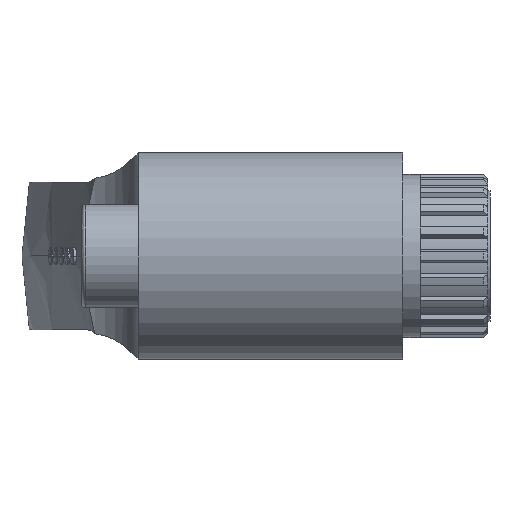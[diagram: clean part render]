
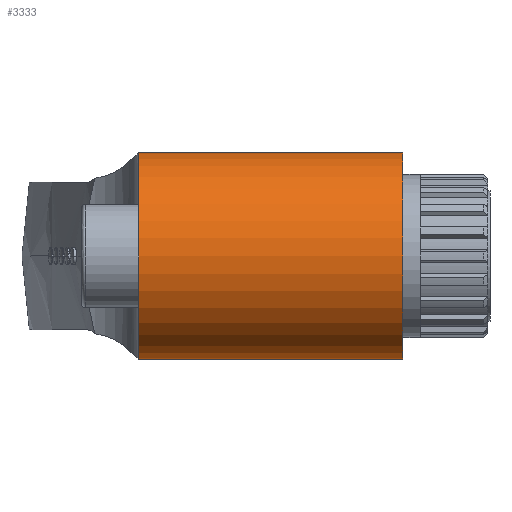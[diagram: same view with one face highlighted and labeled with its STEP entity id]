
A CAD part, left-side view. The second image highlights one B-rep face of the part: STEP entity #3333.
In plain terms, the highlighted cylindrical face has radius 9.5 mm (diameter 19 mm), a partial arc.
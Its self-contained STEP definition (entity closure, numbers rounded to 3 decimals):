
#17 = LINE ( 'NONE', #1514, #216 ) ;
#29 = CARTESIAN_POINT ( 'NONE',  ( 0., 0., -9.5 ) ) ;
#180 = DIRECTION ( 'NONE',  ( 0., 1., 0. ) ) ;
#216 = VECTOR ( 'NONE', #589, 1000. ) ;
#252 = FACE_OUTER_BOUND ( 'NONE', #816, .T. ) ;
#275 = EDGE_CURVE ( 'NONE', #6322, #2502, #4785, .T. ) ;
#449 = CARTESIAN_POINT ( 'NONE',  ( 0., 24.25, 9.5 ) ) ;
#589 = DIRECTION ( 'NONE',  ( 0., -1., 0. ) ) ;
#764 = DIRECTION ( 'NONE',  ( 0., -1., 0. ) ) ;
#816 = EDGE_LOOP ( 'NONE', ( #3938, #3161, #5520, #1374 ) ) ;
#850 = DIRECTION ( 'NONE',  ( 0., 0., -1. ) ) ;
#1192 = VERTEX_POINT ( 'NONE', #5400 ) ;
#1374 = ORIENTED_EDGE ( 'NONE', *, *, #275, .T. ) ;
#1436 = EDGE_CURVE ( 'NONE', #5360, #1192, #2459, .T. ) ;
#1514 = CARTESIAN_POINT ( 'NONE',  ( 0., 40., -9.5 ) ) ;
#1613 = EDGE_CURVE ( 'NONE', #1192, #6322, #17, .T. ) ;
#2169 = VECTOR ( 'NONE', #4702, 1000. ) ;
#2459 = CIRCLE ( 'NONE', #3579, 9.5 ) ;
#2502 = VERTEX_POINT ( 'NONE', #4983 ) ;
#2618 = EDGE_CURVE ( 'NONE', #5360, #2502, #3739, .T. ) ;
#3099 = DIRECTION ( 'NONE',  ( 0., 0., -1. ) ) ;
#3161 = ORIENTED_EDGE ( 'NONE', *, *, #1436, .T. ) ;
#3333 = ADVANCED_FACE ( 'NONE', ( #252 ), #5101, .T. ) ;
#3579 = AXIS2_PLACEMENT_3D ( 'NONE', #4331, #3750, #850 ) ;
#3739 = LINE ( 'NONE', #4129, #2169 ) ;
#3750 = DIRECTION ( 'NONE',  ( 0., -1., 0. ) ) ;
#3938 = ORIENTED_EDGE ( 'NONE', *, *, #2618, .F. ) ;
#4129 = CARTESIAN_POINT ( 'NONE',  ( 0., 40., 9.5 ) ) ;
#4331 = CARTESIAN_POINT ( 'NONE',  ( 0., 24.25, 0. ) ) ;
#4702 = DIRECTION ( 'NONE',  ( 0., -1., 0. ) ) ;
#4785 = CIRCLE ( 'NONE', #5503, 9.5 ) ;
#4966 = CARTESIAN_POINT ( 'NONE',  ( 0., 0., 0. ) ) ;
#4983 = CARTESIAN_POINT ( 'NONE',  ( 0., 0., 9.5 ) ) ;
#5101 = CYLINDRICAL_SURFACE ( 'NONE', #5957, 9.5 ) ;
#5360 = VERTEX_POINT ( 'NONE', #449 ) ;
#5400 = CARTESIAN_POINT ( 'NONE',  ( 0., 24.25, -9.5 ) ) ;
#5503 = AXIS2_PLACEMENT_3D ( 'NONE', #4966, #180, #5945 ) ;
#5520 = ORIENTED_EDGE ( 'NONE', *, *, #1613, .T. ) ;
#5945 = DIRECTION ( 'NONE',  ( 0., 0., -1. ) ) ;
#5957 = AXIS2_PLACEMENT_3D ( 'NONE', #6072, #764, #3099 ) ;
#6072 = CARTESIAN_POINT ( 'NONE',  ( 0., 40., 0. ) ) ;
#6322 = VERTEX_POINT ( 'NONE', #29 ) ;
